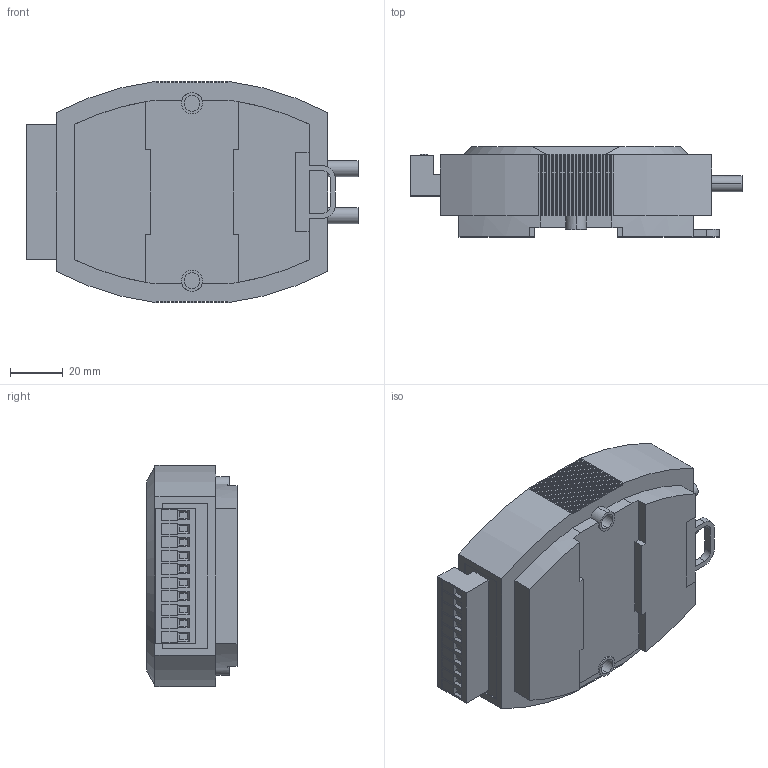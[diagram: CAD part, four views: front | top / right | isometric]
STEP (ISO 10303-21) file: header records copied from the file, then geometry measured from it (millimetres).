
FILE_DESCRIPTION (( 'STEP AP203' ), '1' );
FILE_NAME ('FBR-SERIAL-sm-ST.STEP', '2017-12-14T07:06:56', ( '' ), ( '' ), 'SwSTEP 2.0', 'SolidWorks 2013', '' );
FILE_SCHEMA (( 'CONFIG_CONTROL_DESIGN' ));
Length unit declared in the file: millimetre
Products named in the file (3): FBR-SERIAL-sm-ST; sm-st; pan cross head_am_B18.6.7M - M2 x 0.4 x 4 Type I Cross Recessed PHMS --4N
Assembly tree (11 placements, depth 2):
  FBR-SERIAL-sm-ST
    sm-st
    pan cross head_am_B18.6.7M - M2 x 0.4 x 4 Type I Cross Recessed PHMS --4N  x10
Bounding box: 125.4 x 34 x 83.5 mm (x, y, z)
Volume: 240231.7 mm3; surface area: 33320.1 mm2
Topology: 12 solids, 12 shells, 923 faces, 2836 edges, 2112 vertices
Faces by surface type: plane 777, cylinder 104, torus 20, sphere 20, bspline 2
Entity records: 31979 total; most frequent: CARTESIAN_POINT 10589, ORIENTED_EDGE 4772, DIRECTION 3583, EDGE_CURVE 2386, VERTEX_POINT 1842, LINE 1761, VECTOR 1761, AXIS2_PLACEMENT_3D 911
